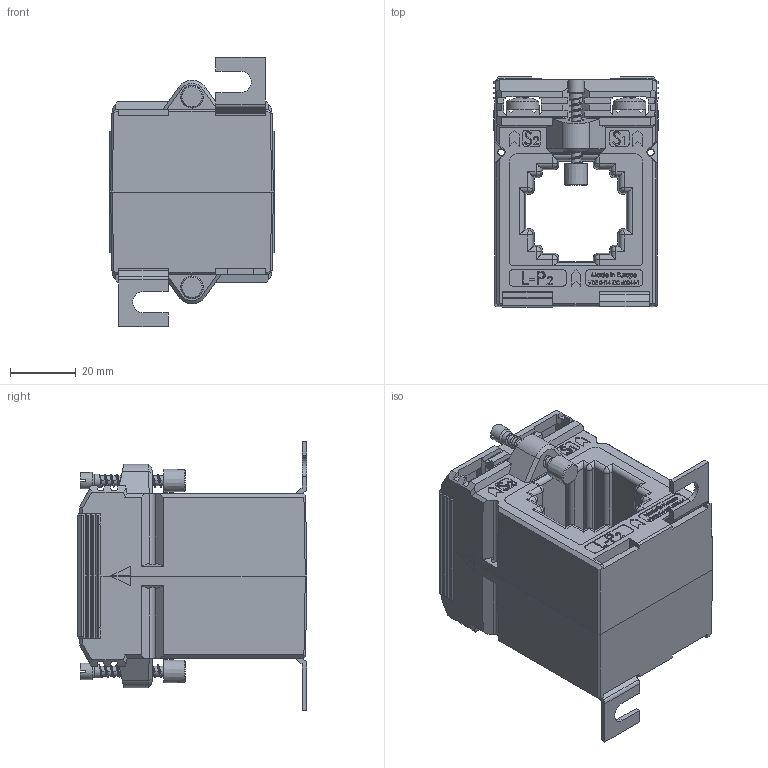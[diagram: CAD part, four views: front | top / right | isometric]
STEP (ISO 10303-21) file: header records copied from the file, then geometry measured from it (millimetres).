
FILE_DESCRIPTION(/* description */ (''),/* implementation_level */ '2;1');
FILE_NAME(/* name */ 'ASK231.5.stp',/* time_stamp */ '2024-03-04T15:21:06+01:00',/* author */ ('JDI'),/* organization */ (''),/* preprocessor_version */ 'ST-DEVELOPER v19.2',/* originating_system */ 'Autodesk Inventor 2023',/* authorisation */ '');
FILE_SCHEMA (('AUTOMOTIVE_DESIGN { 1 0 10303 214 3 1 1 }'));
Products named in the file (1): ASK231.5
Bounding box: 49.9 x 69.92 x 82 mm (x, y, z)
Volume: 117346.4 mm3; surface area: 37567.6 mm2
Topology: 1 solids, 1 shells, 1905 faces, 5046 edges, 3201 vertices
Faces by surface type: plane 1311, bspline 342, cylinder 196, cone 44, sphere 8, torus 4
Full cylindrical faces by diameter (mm): 3 x28, 3.8 x4, 4 x12, 4.1 x2, 5 x2, 10 x4
Entity records: 85123 total; most frequent: CARTESIAN_POINT 38738, ORIENTED_EDGE 10044, DIRECTION 7709, EDGE_CURVE 5022, LINE 3757, VECTOR 3757, VERTEX_POINT 3201, EDGE_LOOP 2047
